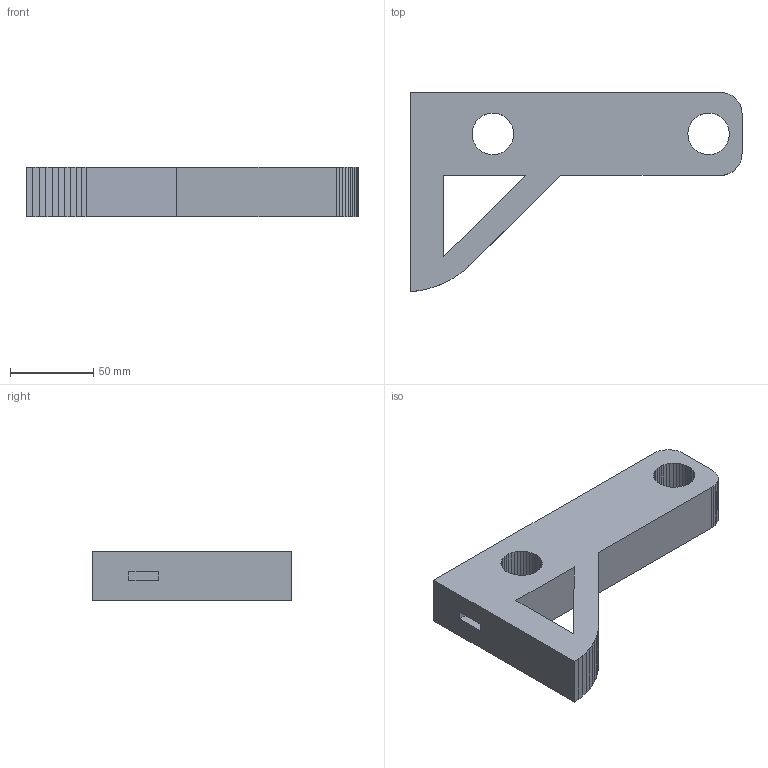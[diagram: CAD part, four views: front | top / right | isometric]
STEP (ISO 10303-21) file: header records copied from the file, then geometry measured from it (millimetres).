
FILE_DESCRIPTION(('Open CASCADE Model'),'2;1');
FILE_NAME('Open CASCADE Shape Model','2026-10-26T18:27:39',('Author'),( 'Open CASCADE'),'Open CASCADE STEP processor 7.9','Open CASCADE 7.9' ,'Unknown');
FILE_SCHEMA(('AUTOMOTIVE_DESIGN { 1 0 10303 214 1 1 1 1 }'));
Length unit declared in the file: millimetre
Products named in the file (1): Open CASCADE STEP translator 7.9 1
Bounding box: 200 x 120 x 30 mm (x, y, z)
Volume: 344804.7 mm3; surface area: 51170.6 mm2
Topology: 1 solids, 1 shells, 131 faces, 384 edges, 256 vertices
Faces by surface type: plane 131
Entity records: 9272 total; most frequent: CARTESIAN_POINT 1540, DIRECTION 1416, LINE 1152, VECTOR 1152, ORIENTED_EDGE 768, PCURVE 768, DEFINITIONAL_REPRESENTATION 768, EDGE_CURVE 384
